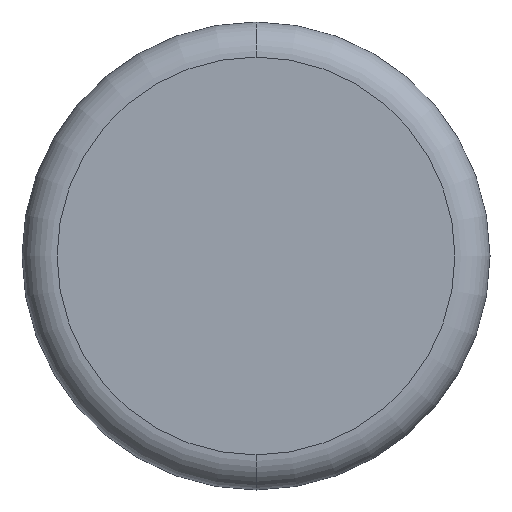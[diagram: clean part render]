
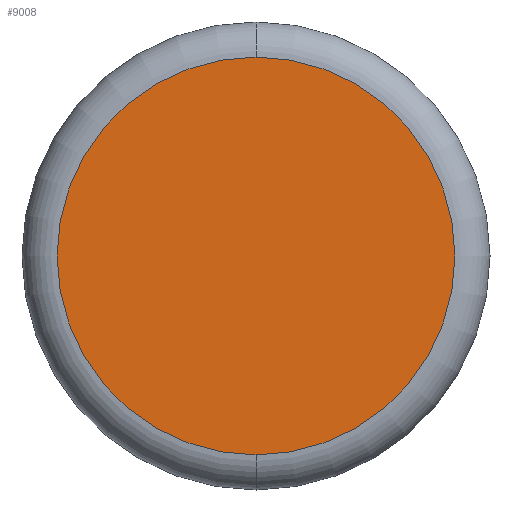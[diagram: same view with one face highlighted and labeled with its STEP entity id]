
A CAD part, front view. The second image highlights one B-rep face of the part: STEP entity #9008.
In plain terms, the highlighted planar face has unit normal (0, -1, 0).
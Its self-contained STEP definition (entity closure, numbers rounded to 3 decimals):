
#278 = DIRECTION ( 'NONE',  ( 0., 1., 0. ) ) ;
#721 = AXIS2_PLACEMENT_3D ( 'NONE', #2642, #3558, #11092 ) ;
#1308 = FACE_OUTER_BOUND ( 'NONE', #11207, .T. ) ;
#1724 = ORIENTED_EDGE ( 'NONE', *, *, #6099, .T. ) ;
#2089 = DIRECTION ( 'NONE',  ( 0., 0., 1. ) ) ;
#2642 = CARTESIAN_POINT ( 'NONE',  ( 0., -17., 0. ) ) ;
#3059 = AXIS2_PLACEMENT_3D ( 'NONE', #8660, #8601, #2089 ) ;
#3558 = DIRECTION ( 'NONE',  ( 0., -1., 0. ) ) ;
#4033 = CIRCLE ( 'NONE', #721, 17. ) ;
#4909 = PLANE ( 'NONE',  #8487 ) ;
#5298 = EDGE_CURVE ( 'NONE', #10506, #11717, #5387, .T. ) ;
#5387 = CIRCLE ( 'NONE', #3059, 17. ) ;
#6099 = EDGE_CURVE ( 'NONE', #11717, #10506, #4033, .T. ) ;
#6106 = ORIENTED_EDGE ( 'NONE', *, *, #5298, .T. ) ;
#7331 = CARTESIAN_POINT ( 'NONE',  ( 0., -17., 17. ) ) ;
#8487 = AXIS2_PLACEMENT_3D ( 'NONE', #8603, #278, #11457 ) ;
#8601 = DIRECTION ( 'NONE',  ( 0., -1., 0. ) ) ;
#8603 = CARTESIAN_POINT ( 'NONE',  ( 0., -17., 0. ) ) ;
#8660 = CARTESIAN_POINT ( 'NONE',  ( 0., -17., 0. ) ) ;
#9008 = ADVANCED_FACE ( 'NONE', ( #1308 ), #4909, .F. ) ;
#10506 = VERTEX_POINT ( 'NONE', #7331 ) ;
#11092 = DIRECTION ( 'NONE',  ( 0., 0., 1. ) ) ;
#11188 = CARTESIAN_POINT ( 'NONE',  ( 0., -17., -17. ) ) ;
#11207 = EDGE_LOOP ( 'NONE', ( #6106, #1724 ) ) ;
#11457 = DIRECTION ( 'NONE',  ( 0., 0., 1. ) ) ;
#11717 = VERTEX_POINT ( 'NONE', #11188 ) ;
